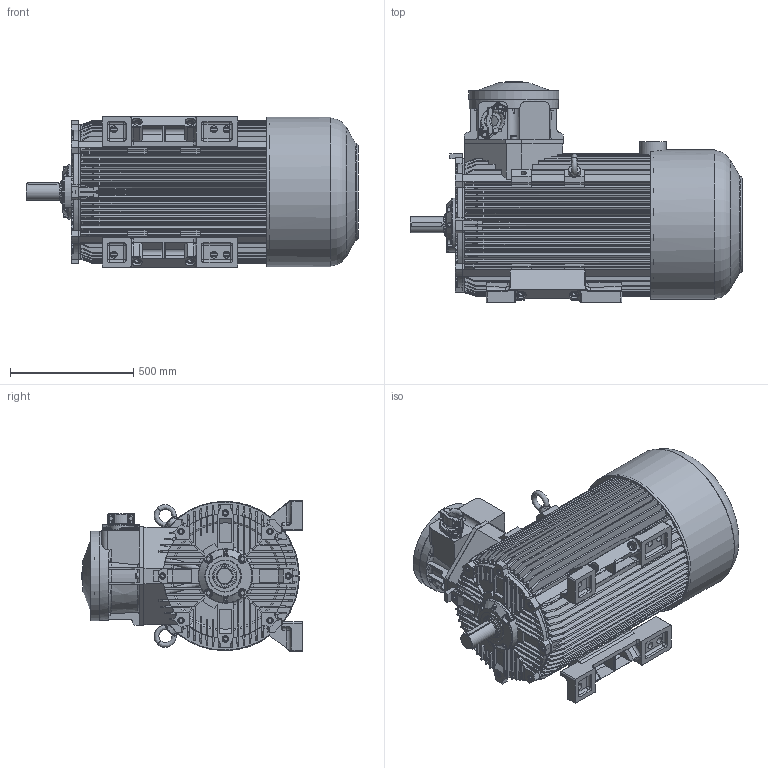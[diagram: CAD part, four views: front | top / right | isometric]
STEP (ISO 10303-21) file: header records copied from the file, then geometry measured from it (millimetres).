
FILE_DESCRIPTION(/* description */ ('Unknown'),/* implementation_level */ '2;1');
FILE_NAME(/* name */ 'cSTe(b)315M2(B,C)-N-IE(2,3)',/* time_stamp */ '2022-04-19T13:43:21+02:00',/* author */ ('Unknown'),/* organization */ ('Unknown'),/* preprocessor_version */ 'ST-DEVELOPER v16.7',/* originating_system */ 'DEX',/* authorisation */ $);
FILE_SCHEMA (('AUTOMOTIVE_DESIGN {1 0 10303 214 3 1 1}'));
Length unit declared in the file: millimetre
Products named in the file (1): cSTe(b)315M2(B,C)-N-IE(2,3)
Bounding box: 1344.96 x 895 x 610.06 mm (x, y, z)
Volume: 304803538.5 mm3; surface area: 7474377.5 mm2
Topology: 1 solids, 57 shells, 3191 faces, 8264 edges, 5234 vertices
Faces by surface type: plane 1394, cylinder 963, cone 366, torus 237, bspline 152, sphere 79
Full cylindrical faces by diameter (mm): 2.8 x2, 3 x4, 8.16 x2, 8.376 x4, 10 x10, 10.106 x10, 11 x6, 12 x16, 13.5 x8, 13.546 x11, 13.835 x11, 14.63 x8, 16 x16, 17.5 x12, 18 x8, 19.6 x2, 20.319 x4, 20.752 x10, 22 x8, 24 x12, 26 x12, 28 x6, 40 x4, 44 x1, 60.376 x1, 65 x1, 67 x1, 85 x1, 87 x1, 104 x1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
Entity records: 124738 total; most frequent: CARTESIAN_POINT 27587, DIRECTION 15524, ORIENTED_EDGE 15326, EDGE_CURVE 7663, AXIS2_PLACEMENT_3D 5877, VERTEX_POINT 5068, FACE_BOUND 3777, LINE 3770
